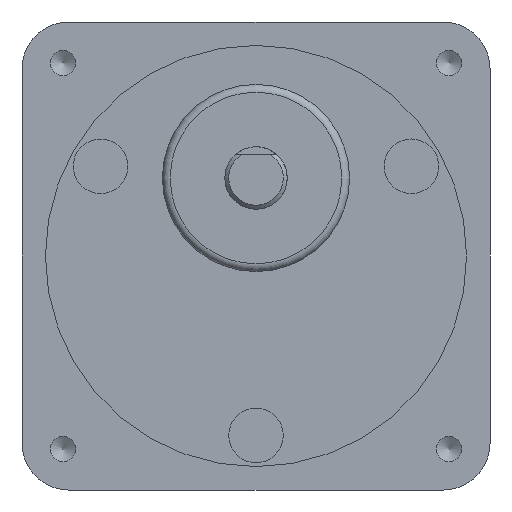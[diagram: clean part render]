
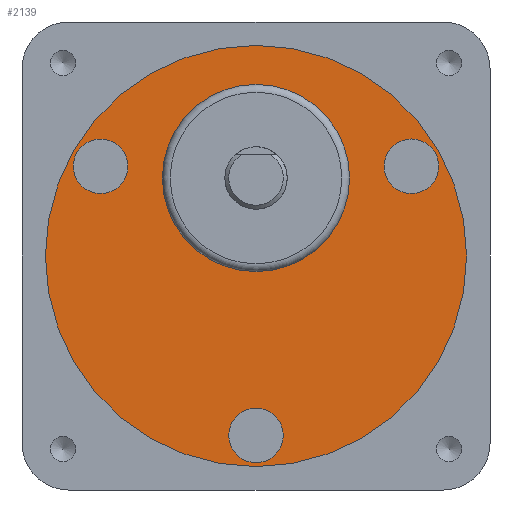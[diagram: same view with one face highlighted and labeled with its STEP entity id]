
A CAD part, front view. The second image highlights one B-rep face of the part: STEP entity #2139.
In plain terms, the highlighted planar face has unit normal (0, -1, 0).
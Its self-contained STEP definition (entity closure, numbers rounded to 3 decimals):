
#819=CARTESIAN_POINT('',(18.169,-3.5,14.531));
#820=VERTEX_POINT('',#819);
#821=CARTESIAN_POINT('',(19.919,-3.5,11.5));
#822=DIRECTION('',(0.0,1.0,0.0));
#823=DIRECTION('',(0.5,0.0,-0.866));
#824=AXIS2_PLACEMENT_3D('',#821,#822,#823);
#825=CIRCLE('',#824,3.5);
#826=EDGE_CURVE('',#820,#820,#825,.T.);
#856=CARTESIAN_POINT('',(-21.669,-3.5,8.469));
#857=VERTEX_POINT('',#856);
#858=CARTESIAN_POINT('',(-19.919,-3.5,11.5));
#859=DIRECTION('',(0.0,1.,0.0));
#860=DIRECTION('',(0.5,0.0,0.866));
#861=AXIS2_PLACEMENT_3D('',#858,#859,#860);
#862=CIRCLE('',#861,3.5);
#863=EDGE_CURVE('',#857,#857,#862,.T.);
#893=CARTESIAN_POINT('',(3.5,-3.5,-23.));
#894=VERTEX_POINT('',#893);
#895=CARTESIAN_POINT('',(0.,-3.5,-23.));
#896=DIRECTION('',(0.0,1.0,0.0));
#897=DIRECTION('',(-1.0,0.0,0.0));
#898=AXIS2_PLACEMENT_3D('',#895,#896,#897);
#899=CIRCLE('',#898,3.5);
#900=EDGE_CURVE('',#894,#894,#899,.T.);
#2088=CARTESIAN_POINT('',(27.,-3.5,0.));
#2089=VERTEX_POINT('',#2088);
#2090=CARTESIAN_POINT('',(0.,-3.5,0.));
#2091=DIRECTION('',(0.0,-1.0,0.0));
#2092=DIRECTION('',(-1.0,0.0,0.0));
#2093=AXIS2_PLACEMENT_3D('',#2090,#2091,#2092);
#2094=CIRCLE('',#2093,27.0);
#2095=EDGE_CURVE('',#2089,#2089,#2094,.T.);
#2111=CARTESIAN_POINT('',(0.,-3.5,0.));
#2112=DIRECTION('',(0.0,1.0,0.0));
#2113=DIRECTION('',(0.0,0.0,1.0));
#2114=AXIS2_PLACEMENT_3D('',#2111,#2112,#2113);
#2115=PLANE('',#2114);
#2116=ORIENTED_EDGE('',*,*,#2095,.T.);
#2117=EDGE_LOOP('',(#2116));
#2118=FACE_OUTER_BOUND('',#2117,.T.);
#2119=ORIENTED_EDGE('',*,*,#826,.T.);
#2120=EDGE_LOOP('',(#2119));
#2121=FACE_BOUND('',#2120,.T.);
#2122=ORIENTED_EDGE('',*,*,#863,.T.);
#2123=EDGE_LOOP('',(#2122));
#2124=FACE_BOUND('',#2123,.T.);
#2125=ORIENTED_EDGE('',*,*,#900,.T.);
#2126=EDGE_LOOP('',(#2125));
#2127=FACE_BOUND('',#2126,.T.);
#2128=CARTESIAN_POINT('',(12.,-3.5,10.0));
#2129=VERTEX_POINT('',#2128);
#2130=CARTESIAN_POINT('',(0.,-3.5,10.));
#2131=DIRECTION('',(0.0,-1.0,0.0));
#2132=DIRECTION('',(-1.0,0.0,0.0));
#2133=AXIS2_PLACEMENT_3D('',#2130,#2131,#2132);
#2134=CIRCLE('',#2133,12.);
#2135=EDGE_CURVE('',#2129,#2129,#2134,.T.);
#2136=ORIENTED_EDGE('',*,*,#2135,.F.);
#2137=EDGE_LOOP('',(#2136));
#2138=FACE_BOUND('',#2137,.T.);
#2139=ADVANCED_FACE('',(#2118,#2121,#2124,#2127,#2138),#2115,.F.);
